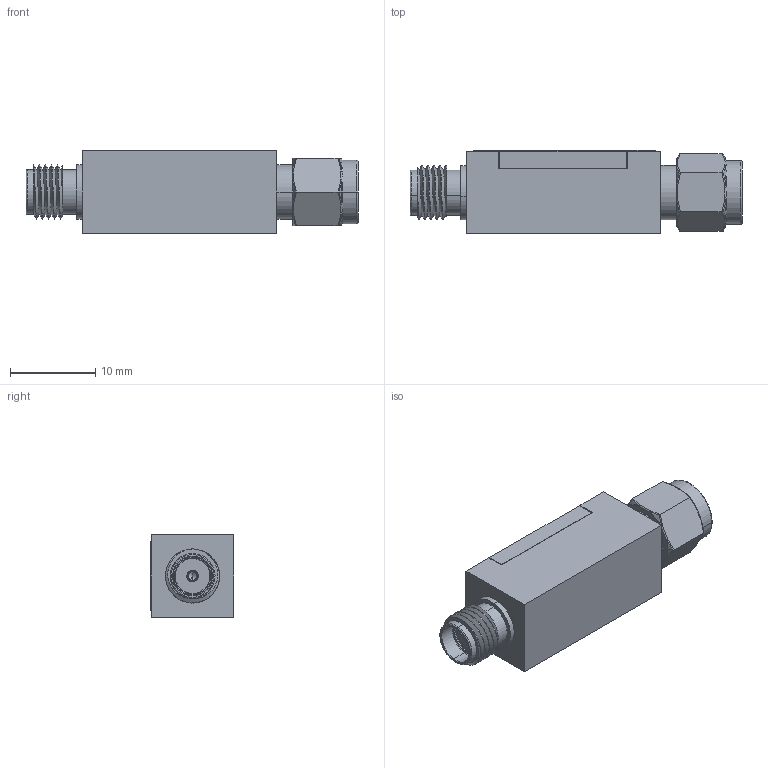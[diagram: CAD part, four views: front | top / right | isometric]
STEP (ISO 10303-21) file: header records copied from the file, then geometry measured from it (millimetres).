
FILE_DESCRIPTION (( 'STEP AP214' ), '1' );
FILE_NAME ('LM-20M18G-100W-15DBM-SFM-PM.STEP', '2024-01-22T18:53:13', ( '' ), ( '' ), 'SwSTEP 2.0', 'SolidWorks 2023', '' );
FILE_SCHEMA (( 'AUTOMOTIVE_DESIGN' ));
Length unit declared in the file: inch
Products named in the file (1): LM-20M18G-100W-15DBM-SFM-PM
Bounding box: 38.99 x 9.78 x 9.65 mm (x, y, z)
Volume: 2397.1 mm3; surface area: 3356.3 mm2
Topology: 14 solids, 15 shells, 1230 faces, 4562 edges, 3476 vertices
Faces by surface type: plane 442, cylinder 399, torus 246, cone 84, bspline 35, sphere 24
Entity records: 59135 total; most frequent: CARTESIAN_POINT 20127, ORIENTED_EDGE 9036, DIRECTION 7206, EDGE_CURVE 4518, VERTEX_POINT 3476, LINE 2450, VECTOR 2450, AXIS2_PLACEMENT_3D 2378
